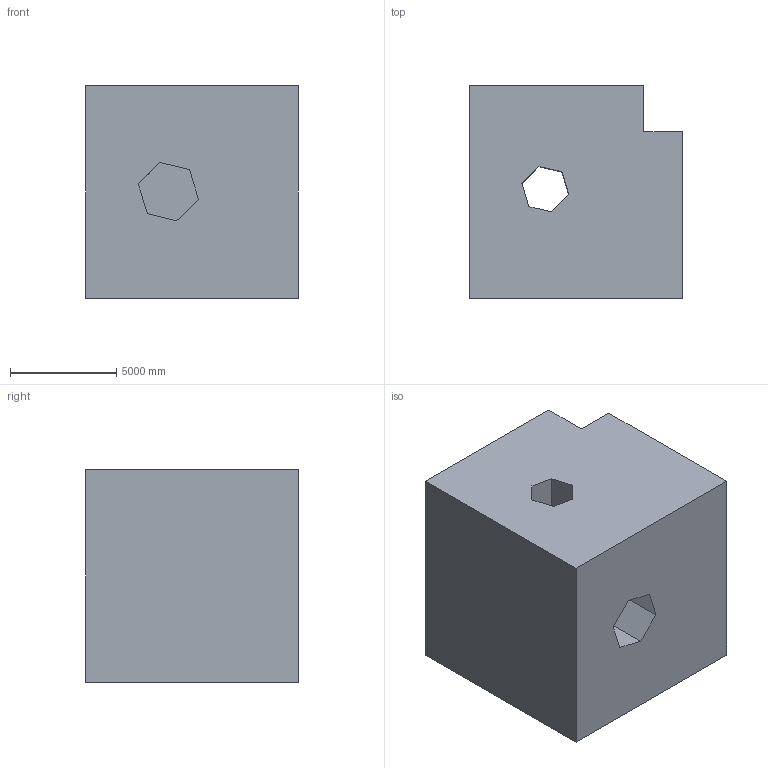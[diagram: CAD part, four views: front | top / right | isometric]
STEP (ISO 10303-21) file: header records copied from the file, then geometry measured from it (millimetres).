
FILE_DESCRIPTION (( 'STEP AP203' ), '1' );
FILE_NAME ('1260.STEP', '2022-08-18T13:26:32', ( 'user' ), ( '' ), 'SwSTEP 2.0', 'SolidWorks 2021', '' );
FILE_SCHEMA (( 'CONFIG_CONTROL_DESIGN' ));
Length unit declared in the file: centimetre
Products named in the file (1): 1260
Bounding box: 10000 x 10000 x 10000 mm (x, y, z)
Volume: 897085003190 mm3; surface area: 692333229.5 mm2
Topology: 1 solids, 1 shells, 28 faces, 81 edges, 54 vertices
Faces by surface type: plane 28
Entity records: 990 total; most frequent: CARTESIAN_POINT 164, ORIENTED_EDGE 162, DIRECTION 139, VECTOR 81, LINE 81, EDGE_CURVE 81, VERTEX_POINT 54, EDGE_LOOP 31
